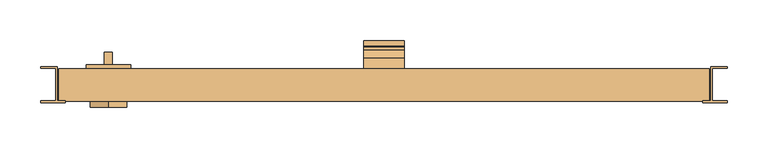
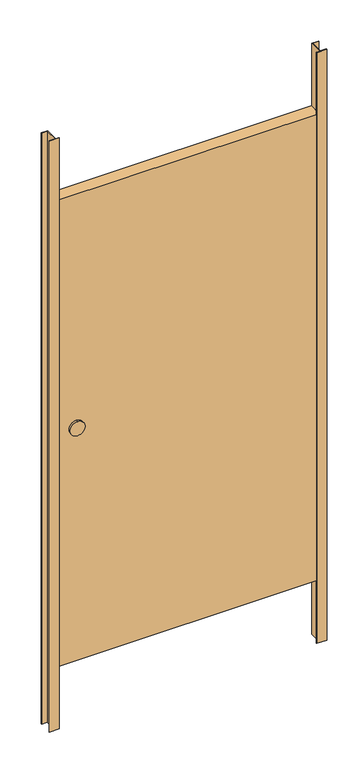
"""IFC4 building model written with IfcOpenShell, lengths in millimetres: door geometry, FDE_PM_PortaBoxe : PM74_PortaBoxe_L0,62m."""

from ifc_helpers import new_model, si_unit, point, frame, frame_2d, origin, origin_with_axes, place, context, project, spatial, polyline, circle_curve, trimmed, segment, composite_curve, outline, extrude, source, transform, mapped, element, save


def door_c5e6bcd0(model_context):
    return source(origin(), model_context, "Body", "SweptSolid", [
        extrude(outline(composite_curve([segment(trimmed(circle_curve(frame_2d((950.0, -339.0)), 22.5), [point((927.5, -339.0))], [point((972.5, -339.0))], False, "CARTESIAN"), True, "CONTINUOUS"), segment(trimmed(circle_curve(frame_2d((950.0, -339.0)), 22.5), [point((972.5, -339.0))], [point((927.5, -339.0))], False, "CARTESIAN"), True, "CONTINUOUS")], self_intersect=False)), frame((0.0, -7.4328407, 0.0), z_axis=(0.0, 1.0, 0.0), x_axis=(0.0, 0.0, 1.0)), (0.0, 0.0, 1.0), 7.4328407),
        extrude(outline(polyline([(-344.0, 60.0), (-334.0, 60.0), (-334.0, 45.0), (-344.0, 45.0), (-344.0, 60.0)])), frame((0.0, 0.0, 932.5), z_axis=(0.0, 0.0, 1.0), x_axis=(1.0, 0.0, 0.0)), (0.0, 0.0, 1.0), 35.0),
        extrude(outline(polyline([(-366.5, 45.0), (-311.5, 45.0), (-311.5, 35.0), (-366.5, 35.0), (-366.5, 45.0)])), frame((0.0, 0.0, 912.5), z_axis=(0.0, 0.0, 1.0), x_axis=(1.0, 0.0, 0.0)), (0.0, 0.0, 1.0), 75.0),
        extrude(outline(composite_curve([segment(polyline([(42.0, 1503.1338874), (42.0, 1478.8625069), (40.0, 1478.8625069), (40.0, 1503.1338874)]), True, "CONTINUOUS"), segment(trimmed(circle_curve(frame_2d((46.298616, 1503.1338874)), 6.298616), [point((40.0, 1503.1338874))], [point((52.597232, 1503.1338874))], False, "CARTESIAN"), True, "CONTINUOUS"), segment(trimmed(circle_curve(frame_2d((95.1631226, 1503.1338874)), 42.5658907), [point((52.597232, 1503.1338874))], [point((62.5557586, 1475.7730602))], True, "CARTESIAN"), True, "CONTINUOUS"), segment(trimmed(circle_curve(frame_2d((66.9440153, 1479.4552447)), 5.7284622), [point((62.5557586, 1475.7730602))], [point((71.3322719, 1475.7730602))], True, "CARTESIAN"), True, "CONTINUOUS"), segment(trimmed(circle_curve(frame_2d((68.2967965, 1478.3201265)), 3.9625316), [point((71.3322719, 1475.7730602))], [point((67.5824915, 1482.2177444))], True, "CARTESIAN"), True, "CONTINUOUS"), segment(trimmed(circle_curve(frame_2d((67.4463365, 1482.9606765)), 0.7553055), [point((67.5824915, 1482.2177444))], [point((67.0901078, 1483.6267002))], False, "CARTESIAN"), True, "CONTINUOUS"), segment(trimmed(circle_curve(frame_2d((68.4109224, 1482.6952637)), 1.6162071), [point((67.0901078, 1483.6267002))], [point((68.0887072, 1484.2790259))], False, "CARTESIAN"), True, "CONTINUOUS"), segment(trimmed(circle_curve(frame_2d((68.2967965, 1478.3201265)), 5.9625316), [point((68.0887072, 1484.2790259))], [point((72.8643608, 1474.487485))], False, "CARTESIAN"), True, "CONTINUOUS"), segment(trimmed(circle_curve(frame_2d((66.9440153, 1479.4552447)), 7.7284622), [point((72.8643608, 1474.487485))], [point((61.0236697, 1474.487485))], False, "CARTESIAN"), True, "CONTINUOUS"), segment(trimmed(circle_curve(frame_2d((95.1631226, 1503.1338874)), 44.5658907), [point((61.0236697, 1474.487485))], [point((50.597232, 1503.1338874))], False, "CARTESIAN"), True, "CONTINUOUS"), segment(trimmed(circle_curve(frame_2d((46.298616, 1503.1338874)), 4.298616), [point((50.597232, 1503.1338874))], [point((42.0, 1503.1338874))], True, "CARTESIAN"), True, "CONTINUOUS")], self_intersect=False)), frame((-25.0, 0.0, 0.0), z_axis=(1.0, 0.0, 0.0), x_axis=(0.0, 1.0, 0.0)), (0.0, 0.0, 1.0), 50.0),
        extrude(outline(polyline([(400.0, 40.0), (400.0, 0.0), (-400.0, 0.0), (-400.0, 40.0), (400.0, 40.0)])), frame((0.0, 0.0, 200.0), z_axis=(0.0, 0.0, 1.0), x_axis=(1.0, 0.0, 0.0)), (0.0, 0.0, 1.0), 1500.0),
        extrude(outline(polyline([(-402.0, 0.0), (-392.0, 0.0), (-392.0, -2.0), (-422.3964539, -2.0), (-422.3964539, 0.0), (-404.0, 0.0), (-404.0, 40.0), (-422.0, 40.0), (-422.0, 42.0), (-402.0, 42.0), (-402.0, 0.0)])), origin_with_axes(), (0.0, 0.0, 1.0), 1900.0),
        extrude(outline(polyline([(402.0, 0.0), (402.0, 42.0), (422.0, 42.0), (422.0, 40.0), (404.0, 40.0), (404.0, 0.0), (422.3964539, 0.0), (422.3964539, -2.0), (392.0, -2.0), (392.0, 0.0), (402.0, 0.0)])), origin_with_axes(), (0.0, 0.0, 1.0), 1900.0),
    ])


if __name__ == "__main__":
    model = new_model("IFC4")
    model_context = context("Model", 3, world=origin())
    ifc_project = project(units=[si_unit("LENGTHUNIT", "METRE", prefix="MILLI")], contexts=[model_context])
    site = spatial("IfcSite", under=ifc_project)
    building = spatial("IfcBuilding", under=site)
    placement = place(None, origin())
    door_shape = door_c5e6bcd0(model_context)
    element("IfcDoor", 1, ObjectType="FDE_PM_PortaBoxe : PM74_PortaBoxe_L0,62m", at=placement, inside=building, context=model_context, shape_type="MappedRepresentation", body=[
        mapped(door_shape, transform((0.0, 0.0, 0.0), x_axis=(1.0, 0.0, 0.0), y_axis=(0.0, 1.0, 0.0), z_axis=(0.0, 0.0, 1.0))),
    ])
    save(model, "model.ifc")
